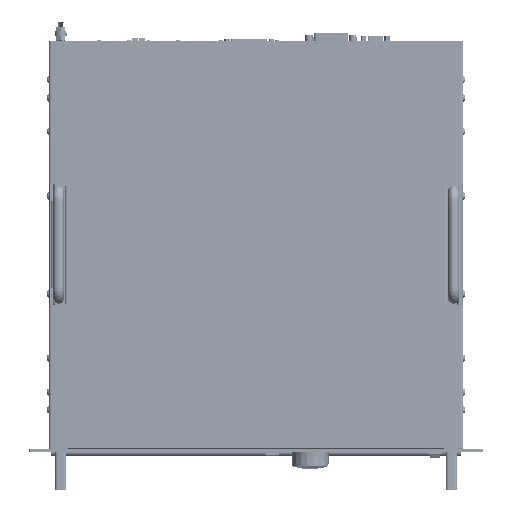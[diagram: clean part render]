
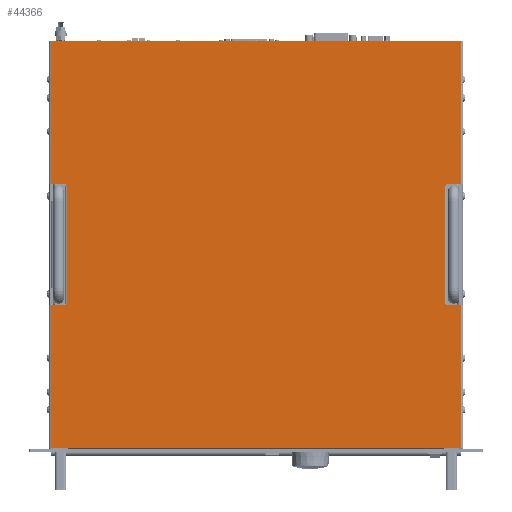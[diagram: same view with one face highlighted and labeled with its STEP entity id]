
A CAD part, top view. The second image highlights one B-rep face of the part: STEP entity #44366.
In plain terms, the highlighted planar face has unit normal (0, 0, 1).
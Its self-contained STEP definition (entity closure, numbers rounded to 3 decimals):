
#44366=ADVANCED_FACE('',(#91323),#91324,.F.);
#91323=FACE_OUTER_BOUND('',#167743,.T.);
#91324=PLANE('',#167744);
#167743=EDGE_LOOP('',(#297979,#297980,#297981,#297982,#297983,#297984,#297985,#297986,#297987,#297988,#297989,#297990,#297991,#297992,#297993,#297994,#297995,#297996,#297997,#297998));
#167744=AXIS2_PLACEMENT_3D('',#297999,#298000,#298001);
#297979=ORIENTED_EDGE('',*,*,#356508,.T.);
#297980=ORIENTED_EDGE('',*,*,#356528,.F.);
#297981=ORIENTED_EDGE('',*,*,#356529,.F.);
#297982=ORIENTED_EDGE('',*,*,#356172,.F.);
#297983=ORIENTED_EDGE('',*,*,#356494,.F.);
#297984=ORIENTED_EDGE('',*,*,#356157,.F.);
#297985=ORIENTED_EDGE('',*,*,#356483,.F.);
#297986=ORIENTED_EDGE('',*,*,#356530,.F.);
#297987=ORIENTED_EDGE('',*,*,#356526,.T.);
#297988=ORIENTED_EDGE('',*,*,#356521,.F.);
#297989=ORIENTED_EDGE('',*,*,#356518,.T.);
#297990=ORIENTED_EDGE('',*,*,#356531,.F.);
#297991=ORIENTED_EDGE('',*,*,#356459,.F.);
#297992=ORIENTED_EDGE('',*,*,#356147,.F.);
#297993=ORIENTED_EDGE('',*,*,#356448,.F.);
#297994=ORIENTED_EDGE('',*,*,#356167,.F.);
#297995=ORIENTED_EDGE('',*,*,#356532,.F.);
#297996=ORIENTED_EDGE('',*,*,#356533,.F.);
#297997=ORIENTED_EDGE('',*,*,#356505,.T.);
#297998=ORIENTED_EDGE('',*,*,#356513,.T.);
#297999=CARTESIAN_POINT('',(236.632,260.765,399.071));
#298000=DIRECTION('',(0.,0.,-1.0));
#298001=DIRECTION('',(-1.0,0.,0.));
#356147=EDGE_CURVE('',#431405,#431407,#431408,.T.);
#356157=EDGE_CURVE('',#431423,#431425,#431426,.T.);
#356167=EDGE_CURVE('',#431441,#431443,#431444,.T.);
#356172=EDGE_CURVE('',#431450,#431452,#431453,.T.);
#356448=EDGE_CURVE('',#431443,#431405,#431883,.T.);
#356459=EDGE_CURVE('',#431407,#431898,#431899,.T.);
#356483=EDGE_CURVE('',#431931,#431423,#431933,.T.);
#356494=EDGE_CURVE('',#431425,#431450,#431948,.T.);
#356505=EDGE_CURVE('',#431959,#431962,#431964,.T.);
#356508=EDGE_CURVE('',#431969,#431966,#431970,.T.);
#356513=EDGE_CURVE('',#431962,#431969,#431975,.T.);
#356518=EDGE_CURVE('',#431981,#431979,#431982,.T.);
#356521=EDGE_CURVE('',#431981,#431985,#431986,.T.);
#356526=EDGE_CURVE('',#431991,#431985,#431993,.T.);
#356528=EDGE_CURVE('',#431995,#431966,#431996,.T.);
#356529=EDGE_CURVE('',#431452,#431995,#431997,.T.);
#356530=EDGE_CURVE('',#431991,#431931,#431998,.T.);
#356531=EDGE_CURVE('',#431898,#431979,#431999,.T.);
#356532=EDGE_CURVE('',#432000,#431441,#432001,.T.);
#356533=EDGE_CURVE('',#431959,#432000,#432002,.T.);
#431405=VERTEX_POINT('',#541995);
#431407=VERTEX_POINT('',#541997);
#431408=LINE('',#541998,#541999);
#431423=VERTEX_POINT('',#542017);
#431425=VERTEX_POINT('',#542019);
#431426=LINE('',#542020,#542021);
#431441=VERTEX_POINT('',#542039);
#431443=VERTEX_POINT('',#542041);
#431444=LINE('',#542042,#542043);
#431450=VERTEX_POINT('',#542050);
#431452=VERTEX_POINT('',#542052);
#431453=LINE('',#542053,#542054);
#431883=LINE('',#542605,#542606);
#431898=VERTEX_POINT('',#542626);
#431899=LINE('',#542627,#542628);
#431931=VERTEX_POINT('',#542674);
#431933=LINE('',#542677,#542678);
#431948=LINE('',#542698,#542699);
#431959=VERTEX_POINT('',#542714);
#431962=VERTEX_POINT('',#542718);
#431964=LINE('',#542720,#542721);
#431966=VERTEX_POINT('',#542723);
#431969=VERTEX_POINT('',#542727);
#431970=LINE('',#542728,#542729);
#431975=LINE('',#542734,#542735);
#431979=VERTEX_POINT('',#542740);
#431981=VERTEX_POINT('',#542743);
#431982=LINE('',#542744,#542745);
#431985=VERTEX_POINT('',#542748);
#431986=LINE('',#542749,#542750);
#431991=VERTEX_POINT('',#542755);
#431993=LINE('',#542758,#542759);
#431995=VERTEX_POINT('',#542761);
#431996=LINE('',#542762,#542763);
#431997=LINE('',#542764,#542765);
#431998=LINE('',#542766,#542767);
#431999=LINE('',#542768,#542769);
#432000=VERTEX_POINT('',#542770);
#432001=LINE('',#542771,#542772);
#432002=LINE('',#542773,#542774);
#541995=CARTESIAN_POINT('',(454.31,477.39,399.071));
#541997=CARTESIAN_POINT('',(454.31,325.39,399.071));
#541998=CARTESIAN_POINT('',(454.31,331.078,399.071));
#541999=VECTOR('',#602095,1.0);
#542017=CARTESIAN_POINT('',(454.31,196.14,399.071));
#542019=CARTESIAN_POINT('',(454.31,44.14,399.071));
#542020=CARTESIAN_POINT('',(454.31,190.453,399.071));
#542021=VECTOR('',#602111,1.0);
#542039=CARTESIAN_POINT('',(18.955,325.39,399.071));
#542041=CARTESIAN_POINT('',(18.955,477.39,399.071));
#542042=CARTESIAN_POINT('',(18.955,331.078,399.071));
#542043=VECTOR('',#602127,1.0);
#542050=CARTESIAN_POINT('',(18.955,44.14,399.071));
#542052=CARTESIAN_POINT('',(18.955,196.14,399.071));
#542053=CARTESIAN_POINT('',(18.955,190.453,399.071));
#542054=VECTOR('',#602135,1.0);
#542605=CARTESIAN_POINT('',(16.205,477.39,399.071));
#542606=VECTOR('',#602521,1.0);
#542626=CARTESIAN_POINT('',(439.06,325.39,399.071));
#542627=CARTESIAN_POINT('',(457.06,325.39,399.071));
#542628=VECTOR('',#602539,1.0);
#542674=CARTESIAN_POINT('',(439.06,196.14,399.071));
#542677=CARTESIAN_POINT('',(439.06,196.14,399.071));
#542678=VECTOR('',#602567,1.0);
#542698=CARTESIAN_POINT('',(457.06,44.14,399.071));
#542699=VECTOR('',#602585,1.0);
#542714=CARTESIAN_POINT('',(34.205,323.39,399.071));
#542718=CARTESIAN_POINT('',(35.955,323.39,399.071));
#542720=CARTESIAN_POINT('',(135.339,323.39,399.071));
#542721=VECTOR('',#602597,1.0);
#542723=CARTESIAN_POINT('',(34.205,198.14,399.071));
#542727=CARTESIAN_POINT('',(35.955,198.14,399.071));
#542728=CARTESIAN_POINT('',(135.339,198.14,399.071));
#542729=VECTOR('',#602599,1.0);
#542734=CARTESIAN_POINT('',(35.955,260.765,399.071));
#542735=VECTOR('',#602609,1.0);
#542740=CARTESIAN_POINT('',(439.06,323.39,399.071));
#542743=CARTESIAN_POINT('',(437.31,323.39,399.071));
#542744=CARTESIAN_POINT('',(337.926,323.39,399.071));
#542745=VECTOR('',#602612,1.0);
#542748=CARTESIAN_POINT('',(437.31,198.14,399.071));
#542749=CARTESIAN_POINT('',(437.31,260.765,399.071));
#542750=VECTOR('',#602616,1.0);
#542755=CARTESIAN_POINT('',(439.06,198.14,399.071));
#542758=CARTESIAN_POINT('',(337.926,198.14,399.071));
#542759=VECTOR('',#602624,1.0);
#542761=CARTESIAN_POINT('',(34.205,196.14,399.071));
#542762=CARTESIAN_POINT('',(34.205,196.14,399.071));
#542763=VECTOR('',#602625,1.0);
#542764=CARTESIAN_POINT('',(16.205,196.14,399.071));
#542765=VECTOR('',#602626,1.0);
#542766=CARTESIAN_POINT('',(439.06,198.14,399.071));
#542767=VECTOR('',#602627,1.0);
#542768=CARTESIAN_POINT('',(439.06,325.39,399.071));
#542769=VECTOR('',#602628,1.0);
#542770=CARTESIAN_POINT('',(34.205,325.39,399.071));
#542771=CARTESIAN_POINT('',(34.205,325.39,399.071));
#542772=VECTOR('',#602629,1.0);
#542773=CARTESIAN_POINT('',(34.205,323.39,399.071));
#542774=VECTOR('',#602630,1.0);
#602095=DIRECTION('',(0.0,-1.0,0.0));
#602111=DIRECTION('',(0.0,-1.0,0.0));
#602127=DIRECTION('',(0.0,1.0,0.0));
#602135=DIRECTION('',(0.0,1.0,0.0));
#602521=DIRECTION('',(1.0,0.0,0.0));
#602539=DIRECTION('',(-1.0,0.0,0.0));
#602567=DIRECTION('',(1.0,0.0,0.0));
#602585=DIRECTION('',(-1.0,0.0,0.0));
#602597=DIRECTION('',(1.0,0.0,0.0));
#602599=DIRECTION('',(-1.0,0.,0.0));
#602609=DIRECTION('',(0.0,-1.0,0.0));
#602612=DIRECTION('',(1.0,0.0,0.0));
#602616=DIRECTION('',(0.0,-1.0,0.0));
#602624=DIRECTION('',(-1.0,0.,0.0));
#602625=DIRECTION('',(0.0,1.0,0.0));
#602626=DIRECTION('',(1.0,0.0,0.0));
#602627=DIRECTION('',(0.0,-1.0,0.0));
#602628=DIRECTION('',(0.0,-1.0,0.0));
#602629=DIRECTION('',(-1.0,0.0,0.0));
#602630=DIRECTION('',(0.0,1.0,0.0));
